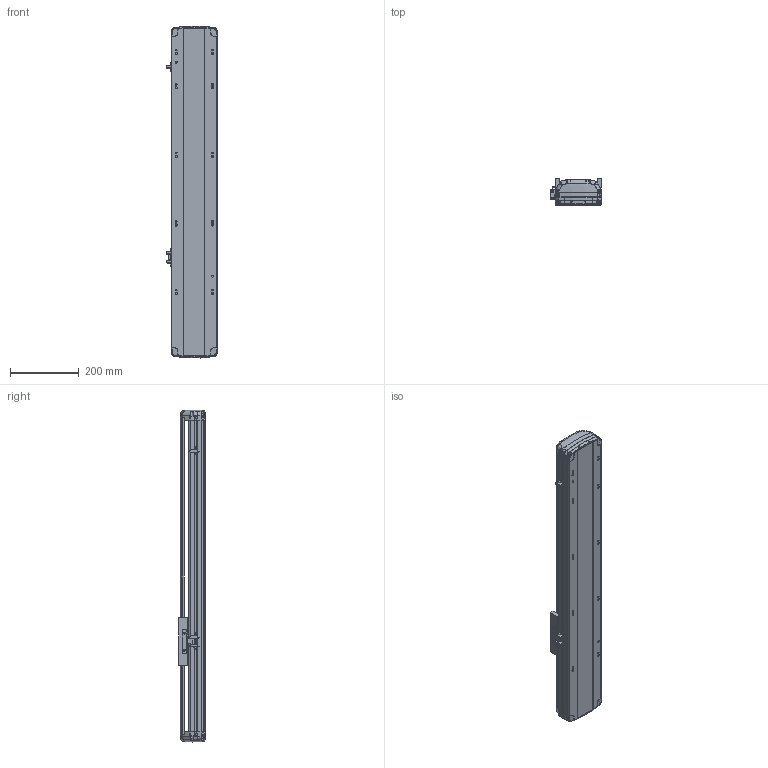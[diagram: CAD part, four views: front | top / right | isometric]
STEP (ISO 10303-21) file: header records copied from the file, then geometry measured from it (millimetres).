
FILE_DESCRIPTION (( 'STEP AP214' ), '1' );
FILE_NAME ('RTH14-XX-550-B-M20B-C4.STEP', '2025-10-24T08:36:51', ( 'Microsoft' ), ( 'Microsoft' ), 'SwSTEP 2.0', 'SolidWorks 2018', '' );
FILE_SCHEMA (( 'AUTOMOTIVE_DESIGN' ));
Length unit declared in the file: millimetre
Products named in the file (7): N_OMRON EE-SX672 传感器^RTH14-XX-XX-B-M20B-C4; RTH14-XX-550-B-M20B-C4; N_RTH14-B-011PB菁釱^RTH14-XX-XX-B-M20B-C4; N_RTH13-L-012感应片（外置）^RTH14-XX-XX-B-M20B-C4; N_RTH14-R-004-SFSR16賑釱^RTH14-XX-XX-B-M20B-C4; N_RTH14-B-007B奻裔^RTH14-XX-XX-B-M20B-C4; N_RTH14-GY-001P^RTH14-XX-XX-B-M20B-C4
Assembly tree (9 placements, depth 2):
  RTH14-XX-550-B-M20B-C4
    N_RTH14-B-011PB菁釱^RTH14-XX-XX-B-M20B-C4
    N_RTH14-B-007B奻裔^RTH14-XX-XX-B-M20B-C4
    N_RTH13-L-012感应片（外置）^RTH14-XX-XX-B-M20B-C4
    N_OMRON EE-SX672 传感器^RTH14-XX-XX-B-M20B-C4  x3
    N_RTH14-R-004-SFSR16賑釱^RTH14-XX-XX-B-M20B-C4
    N_RTH14-GY-001P^RTH14-XX-XX-B-M20B-C4  x2
Bounding box: 148.5 x 78.03 x 968.74 mm (x, y, z)
Volume: 4015326.6 mm3; surface area: 930197.8 mm2
Topology: 9 solids, 9 shells, 1918 faces, 5404 edges, 3518 vertices
Faces by surface type: plane 979, bspline 450, cylinder 425, cone 56, torus 8
Entity records: 46616 total; most frequent: CARTESIAN_POINT 20866, ORIENTED_EDGE 5824, DIRECTION 4275, EDGE_CURVE 2912, VERTEX_POINT 1904, VECTOR 1639, LINE 1639, AXIS2_PLACEMENT_3D 1318
